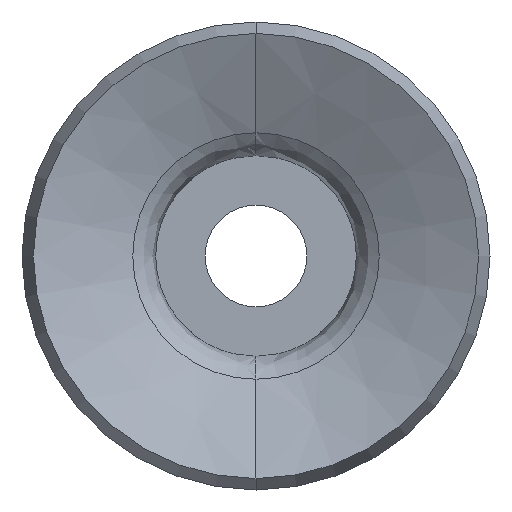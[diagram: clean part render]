
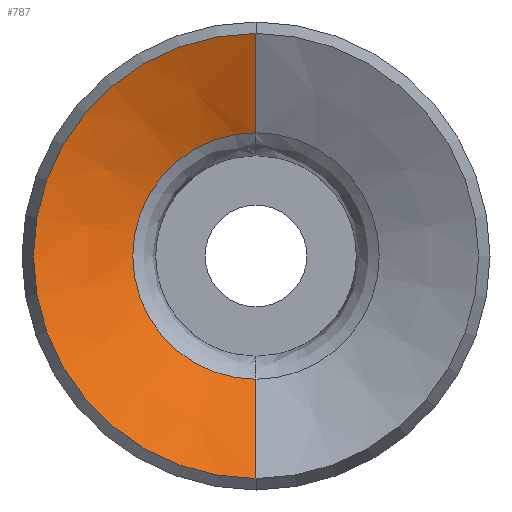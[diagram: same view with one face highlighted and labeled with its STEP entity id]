
A CAD part, front view. The second image highlights one B-rep face of the part: STEP entity #787.
In plain terms, the highlighted conical face has half-angle 64.706 degrees and reference radius 4.609 mm.
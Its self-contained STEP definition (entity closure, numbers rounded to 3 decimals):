
#52 = VECTOR ( 'NONE', #1678, 1000. ) ;
#80 = CARTESIAN_POINT ( 'NONE',  ( 0., -21.245, -4.609 ) ) ;
#101 = VECTOR ( 'NONE', #945, 1000. ) ;
#115 = DIRECTION ( 'NONE',  ( 0., -1., 0. ) ) ;
#119 = VERTEX_POINT ( 'NONE', #763 ) ;
#137 = CONICAL_SURFACE ( 'NONE', #1423, 4.609, 1.129 ) ;
#229 = LINE ( 'NONE', #1233, #101 ) ;
#253 = CIRCLE ( 'NONE', #663, 8.323 ) ;
#338 = ORIENTED_EDGE ( 'NONE', *, *, #728, .T. ) ;
#376 = LINE ( 'NONE', #1104, #52 ) ;
#388 = ORIENTED_EDGE ( 'NONE', *, *, #1285, .T. ) ;
#439 = EDGE_LOOP ( 'NONE', ( #1130, #388, #338, #650 ) ) ;
#445 = DIRECTION ( 'NONE',  ( 0., -1., 0. ) ) ;
#573 = CIRCLE ( 'NONE', #861, 4.609 ) ;
#638 = EDGE_CURVE ( 'NONE', #1556, #119, #573, .T. ) ;
#650 = ORIENTED_EDGE ( 'NONE', *, *, #1612, .F. ) ;
#663 = AXIS2_PLACEMENT_3D ( 'NONE', #1268, #115, #1821 ) ;
#718 = CARTESIAN_POINT ( 'NONE',  ( 0., -23., 8.323 ) ) ;
#728 = EDGE_CURVE ( 'NONE', #1156, #1402, #253, .T. ) ;
#763 = CARTESIAN_POINT ( 'NONE',  ( 0., -21.245, 4.609 ) ) ;
#787 = ADVANCED_FACE ( 'NONE', ( #1419 ), #137, .F. ) ;
#861 = AXIS2_PLACEMENT_3D ( 'NONE', #1257, #1670, #1514 ) ;
#945 = DIRECTION ( 'NONE',  ( 0., -0.427, -0.904 ) ) ;
#1007 = CARTESIAN_POINT ( 'NONE',  ( 0., -23., -8.323 ) ) ;
#1104 = CARTESIAN_POINT ( 'NONE',  ( 0., -21.245, 4.609 ) ) ;
#1130 = ORIENTED_EDGE ( 'NONE', *, *, #638, .T. ) ;
#1156 = VERTEX_POINT ( 'NONE', #718 ) ;
#1233 = CARTESIAN_POINT ( 'NONE',  ( 0., -21.245, -4.609 ) ) ;
#1257 = CARTESIAN_POINT ( 'NONE',  ( 0., -21.245, 0. ) ) ;
#1268 = CARTESIAN_POINT ( 'NONE',  ( 0., -23., 0. ) ) ;
#1285 = EDGE_CURVE ( 'NONE', #119, #1156, #376, .T. ) ;
#1402 = VERTEX_POINT ( 'NONE', #1007 ) ;
#1419 = FACE_OUTER_BOUND ( 'NONE', #439, .T. ) ;
#1423 = AXIS2_PLACEMENT_3D ( 'NONE', #1736, #445, #1429 ) ;
#1429 = DIRECTION ( 'NONE',  ( 0., 0., -1. ) ) ;
#1514 = DIRECTION ( 'NONE',  ( 0., 0., -1. ) ) ;
#1556 = VERTEX_POINT ( 'NONE', #80 ) ;
#1612 = EDGE_CURVE ( 'NONE', #1556, #1402, #229, .T. ) ;
#1670 = DIRECTION ( 'NONE',  ( 0., 1., 0. ) ) ;
#1678 = DIRECTION ( 'NONE',  ( 0., -0.427, 0.904 ) ) ;
#1736 = CARTESIAN_POINT ( 'NONE',  ( 0., -21.245, 0. ) ) ;
#1821 = DIRECTION ( 'NONE',  ( -1., 0., 0. ) ) ;
